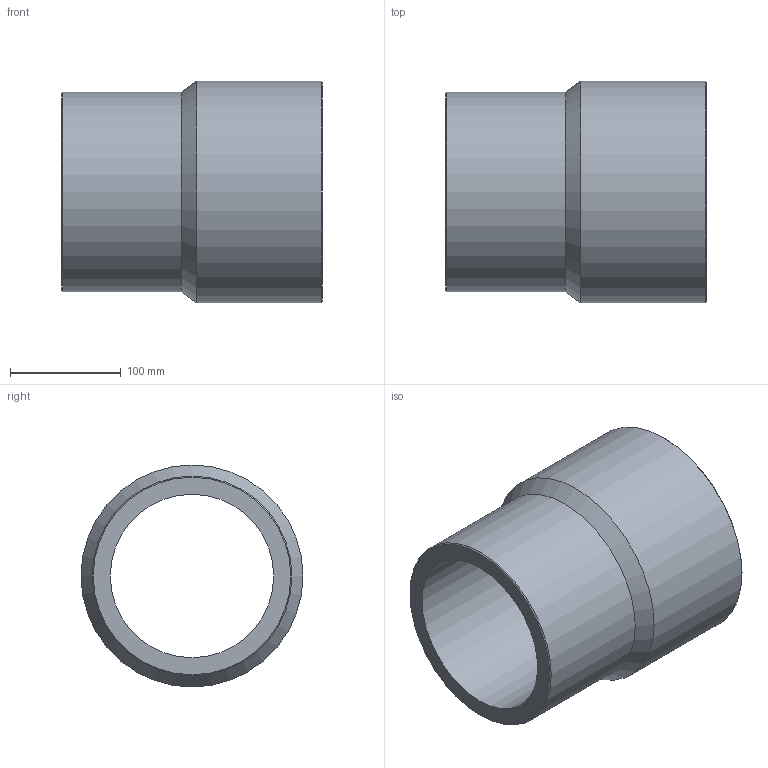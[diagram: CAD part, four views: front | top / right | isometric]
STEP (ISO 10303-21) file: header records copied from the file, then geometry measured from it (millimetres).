
FILE_DESCRIPTION(/* description */ ('Unknown'),/* implementation_level */ '2;1');
FILE_NAME(/* name */ 'RP200180C',/* time_stamp */ '2021-09-17T15:21:06+02:00',/* author */ ('Unknown'),/* organization */ ('Unknown'),/* preprocessor_version */ 'ST-DEVELOPER v16.7',/* originating_system */ 'Solid Edge',/* authorisation */ 'Unknown');
FILE_SCHEMA (('AUTOMOTIVE_DESIGN {1 0 10303 214 3 1 1}'));
Length unit declared in the file: millimetre
Products named in the file (1): RP200180C
Bounding box: 235 x 200 x 200 mm (x, y, z)
Volume: 2267917.8 mm3; surface area: 275736.9 mm2
Topology: 1 solids, 1 shells, 10 faces, 19 edges, 11 vertices
Faces by surface type: cylinder 4, cone 4, plane 2
Full cylindrical faces by diameter (mm): 147.2 x1, 163.6 x1, 180 x1, 200 x1
Entity records: 238 total; most frequent: DIRECTION 42, CARTESIAN_POINT 31, AXIS2_PLACEMENT_3D 21, ORIENTED_EDGE 20, EDGE_LOOP 20, FACE_BOUND 20, EDGE_CURVE 10, VERTEX_POINT 10
